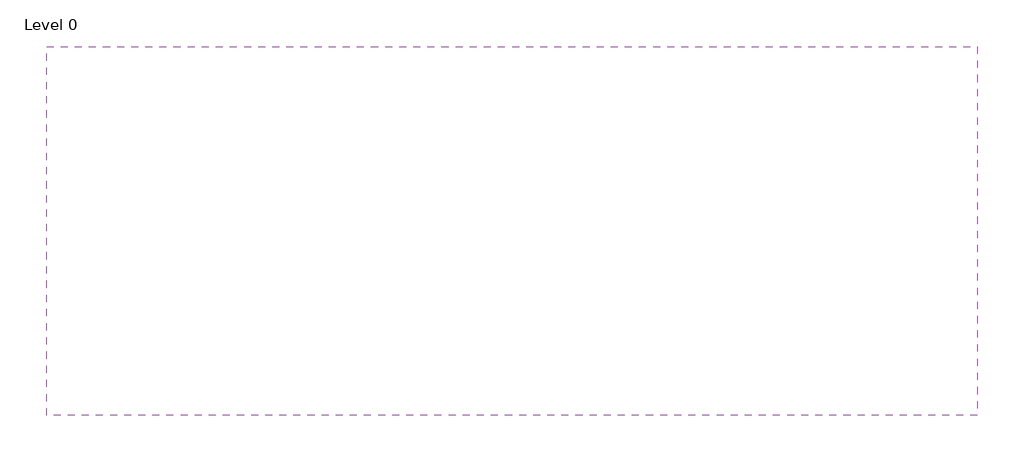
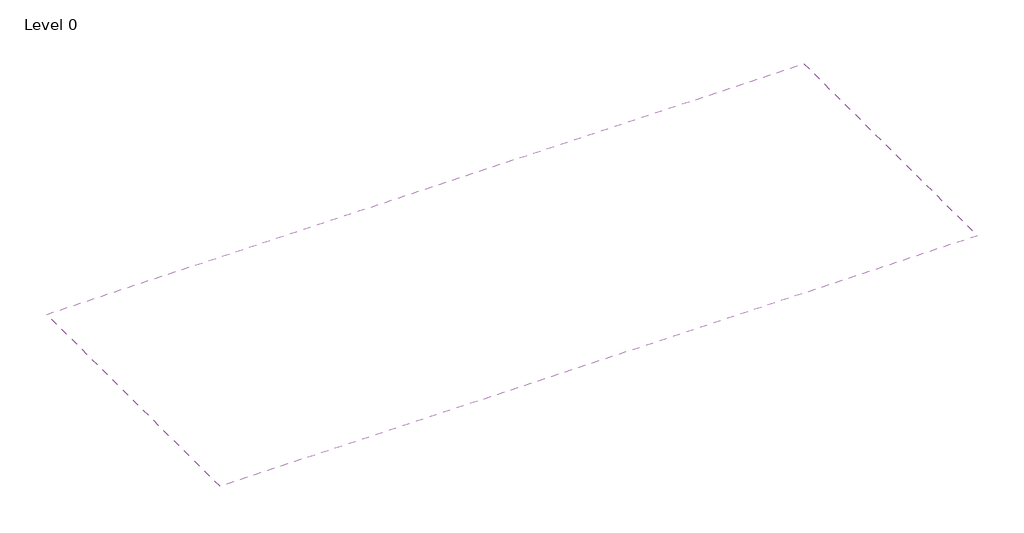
# One storey: 1 covering.
"""IFC4 building model written with IfcOpenShell, lengths in millimetres."""

import ifcopenshell
import ifcopenshell.guid

model = None  # the IFC model being written
_history = None  # IfcOwnerHistory: only IFC2X3 demands one
_inside = {}  # id of a spatial element -> (the spatial element, [elements in it])
_under = {}  # id of a project, library or spatial element -> (it, [spatial elements below it])
_declared = {}  # id of a project -> (the project, [libraries it declares])
_typed = {}  # id of a type object -> (the type object, [elements of that type])
_made_of = {}  # id of a material, layer set ... -> (it, [elements and type objects made of it])


def new_model(schema):
    """Start an empty IFC model of exactly this schema.

    Asked for "IFC4X3", IfcOpenShell would pick the latest addendum, in which some entities
    have other attributes; the version numbers below select the first issue.
    IFC2X3 requires an IfcOwnerHistory on every rooted entity: one is made here for all.
    """
    global model, _history
    if schema == "IFC4X3":
        model = ifcopenshell.file(schema_version=(4, 3, 0, 0))
    else:
        model = ifcopenshell.file(schema=schema)
    _inside.clear()
    _under.clear()
    _declared.clear()
    _typed.clear()
    _made_of.clear()
    _history = None
    if model.schema == "IFC2X3":
        org = make("IfcOrganization", Name="unknown")
        user = make(
            "IfcPersonAndOrganization",
            ThePerson=make("IfcPerson", FamilyName="unknown"),
            TheOrganization=org,
        )
        app = make(
            "IfcApplication",
            ApplicationDeveloper=org,
            Version="unknown",
            ApplicationFullName="unknown",
            ApplicationIdentifier="unknown",
        )
        _history = make(
            "IfcOwnerHistory",
            OwningUser=user,
            OwningApplication=app,
            ChangeAction="ADDED",
            CreationDate=0,
        )
    return model


def make(cls, **values):
    """One entity of the class cls with the attributes given. An attribute that is None is left unset."""
    return model.create_entity(
        cls, **{name: value for name, value in values.items() if value is not None}
    )


def rooted(cls, **values):
    """An entity with a GlobalId (a new one), such as an element, a storey or a relation."""
    return make(cls, GlobalId=ifcopenshell.guid.new(), OwnerHistory=_history, **values)


def si_unit(unit_type, name, prefix=None):
    """IfcSIUnit, for example si_unit("LENGTHUNIT", "METRE", prefix="MILLI")."""
    return make("IfcSIUnit", UnitType=unit_type, Prefix=prefix, Name=name)


def assignment(units):
    """IfcUnitAssignment: the units of a project."""
    return None if units is None else make("IfcUnitAssignment", Units=units)


def point(xyz):
    """IfcCartesianPoint."""
    return None if xyz is None else make("IfcCartesianPoint", Coordinates=xyz)


def direction(xyz):
    """IfcDirection."""
    return None if xyz is None else make("IfcDirection", DirectionRatios=xyz)


def frame(location, z_axis=None, x_axis=None):
    """IfcAxis2Placement3D, a coordinate frame: its origin and axes. An axis left out is left unset."""
    return make(
        "IfcAxis2Placement3D",
        Location=point(location),
        Axis=direction(z_axis),
        RefDirection=direction(x_axis),
    )


def origin():
    """The frame at (0, 0, 0) with its axes left unset."""
    return frame((0.0, 0.0, 0.0))


def place(relative_to, where):
    """IfcLocalPlacement: puts the frame where relative to a parent placement (None: the world)."""
    return make(
        "IfcLocalPlacement", PlacementRelTo=relative_to, RelativePlacement=where
    )


def context(
    kind, dimensions, precision=None, world=None, true_north=None, identifier=None
):
    """IfcGeometricRepresentationContext, for example the 3D "Model" context."""
    return make(
        "IfcGeometricRepresentationContext",
        ContextIdentifier=identifier,
        ContextType=kind,
        CoordinateSpaceDimension=dimensions,
        Precision=precision,
        WorldCoordinateSystem=world,
        TrueNorth=true_north,
    )


def project(units=None, contexts=None):
    """IfcProject with its units and contexts."""
    return rooted(
        "IfcProject",
        Name="project",
        RepresentationContexts=contexts,
        UnitsInContext=assignment(units),
    )


def spatial(cls, under=None, at=None, **own):
    """A site, building, storey or space (cls), placed at a placement, below another one or the project."""
    s = rooted(cls, ObjectPlacement=at, **own)
    if under is not None:
        _under.setdefault(under.id(), (under, []))[1].append(s)
    return s


def polyline(points):
    """IfcPolyline through the points."""
    return make("IfcPolyline", Points=[point(p) for p in points])


def outline(outer, holes=None, kind="AREA"):
    """IfcArbitraryClosedProfileDef: a profile drawn as a closed curve; with holes, ...WithVoids."""
    if holes is None:
        return make("IfcArbitraryClosedProfileDef", ProfileType=kind, OuterCurve=outer)
    return make(
        "IfcArbitraryProfileDefWithVoids",
        ProfileType=kind,
        OuterCurve=outer,
        InnerCurves=holes,
    )


def extrude(swept, where, along, depth):
    """IfcExtrudedAreaSolid: the profile swept, set in the frame where, extruded along a direction by depth."""
    return make(
        "IfcExtrudedAreaSolid",
        SweptArea=swept,
        Position=where,
        ExtrudedDirection=direction(along),
        Depth=depth,
    )


def shape(context_of_items, identifier, shape_type, items):
    """IfcShapeRepresentation: the items that make up one representation, for example the "Body"."""
    return make(
        "IfcShapeRepresentation",
        ContextOfItems=context_of_items,
        RepresentationIdentifier=identifier,
        RepresentationType=shape_type,
        Items=items,
    )


def made_of(thing, what):
    """Note that an element or type object is made of a material, layer set ...; save() writes the relation."""
    if what is not None:
        _made_of.setdefault(what.id(), (what, []))[1].append(thing)
    return thing


def element(
    cls,
    number,
    at=None,
    inside=None,
    cuts=None,
    type_object=None,
    material=None,
    context=None,
    identifier="Body",
    shape_type=None,
    held_by="IfcProductDefinitionShape",
    body=None,
    shapes=None,
    **own,
):
    """One element of the class cls, such as IfcWall. Its Tag is "e" and its number.

    at: its placement. inside: the storey or other place that contains it. cuts: it is an
    opening in that element (IfcRelVoidsElement). A single representation is given by context,
    identifier, shape_type and body (its items); several are given by shapes. held_by: the class
    of the entity that holds the representations. save() writes the other relations.
    """
    e = rooted(cls, Tag="e%d" % number, ObjectPlacement=at, **own)
    if body is not None:
        shapes = [shape(context, identifier, shape_type, body)]
    if shapes is not None:
        e.Representation = make(held_by, Representations=shapes)
    if inside is not None:
        _inside.setdefault(inside.id(), (inside, []))[1].append(e)
    if cuts is not None:
        rooted(
            "IfcRelVoidsElement", RelatingBuildingElement=cuts, RelatedOpeningElement=e
        )
    if type_object is not None:
        _typed.setdefault(type_object.id(), (type_object, []))[1].append(e)
    return made_of(e, material)


def aggregate(whole, parts):
    """IfcRelAggregates: a whole, such as a stair, and the parts it consists of."""
    return rooted("IfcRelAggregates", RelatingObject=whole, RelatedObjects=parts)


def save(model, path):
    """Write the relations noted so far, then the file.

    IfcRelAggregates (storeys below a building ...), IfcRelContainedInSpatialStructure (elements
    in a storey), IfcRelDefinesByType, IfcRelAssociatesMaterial and IfcRelDeclares: one each for
    every whole, place, type object, material and project.
    """
    for whole, parts in _under.values():
        aggregate(whole, parts)
    for where, things in _inside.values():
        rooted(
            "IfcRelContainedInSpatialStructure",
            RelatedElements=things,
            RelatingStructure=where,
        )
    for kind, things in _typed.values():
        rooted("IfcRelDefinesByType", RelatedObjects=things, RelatingType=kind)
    for what, things in _made_of.values():
        rooted("IfcRelAssociatesMaterial", RelatedObjects=things, RelatingMaterial=what)
    for by, libraries in _declared.values():
        rooted("IfcRelDeclares", RelatingContext=by, RelatedDefinitions=libraries)
    model.write(path)


model = new_model("IFC4")

# Units and contexts
model_context = context("Model", 3, world=origin())
ifc_project = project(units=[si_unit("LENGTHUNIT", "METRE", prefix="MILLI")], contexts=[model_context])

# Site, building, storey
site = spatial("IfcSite", under=ifc_project)
building = spatial("IfcBuilding", under=site)
storey = spatial("IfcBuildingStorey", under=building, Name="Level 0", Elevation=0.0)

# Covering
placement = place(None, origin())
element("IfcCovering", 1, ObjectType="C106008 - CasoLine MF", at=placement, inside=storey, context=model_context, shape_type="SweptSolid", body=[
    extrude(outline(polyline([(5539.9180902, 3298.2151047), (5539.9180902, -1501.7848953), (-6560.0819098, -1501.7848953), (-6560.0819098, 3298.2151047), (5539.9180902, 3298.2151047)])), frame((0.0, 0.0, 2600.0), z_axis=(0.0, 0.0, 1.0), x_axis=(1.0, 0.0, 0.0)), (0.0, 0.0, 1.0), 289.5),
])

save(model, "model.ifc")
